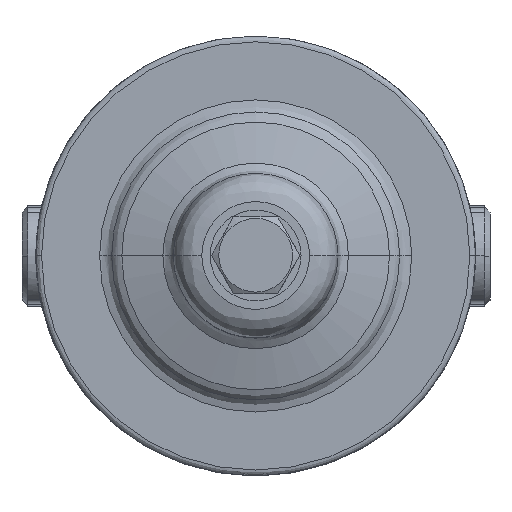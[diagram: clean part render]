
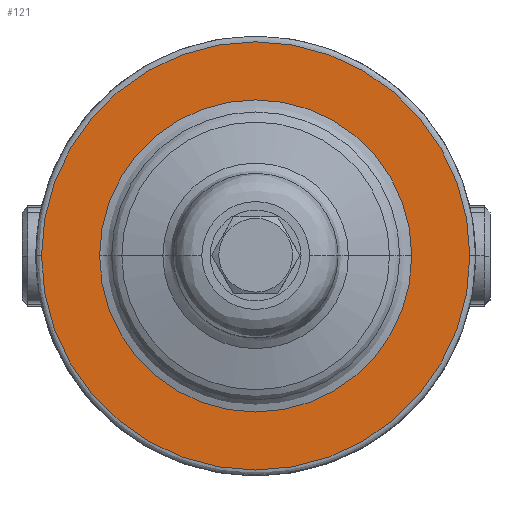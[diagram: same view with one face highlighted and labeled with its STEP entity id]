
A CAD part, top view. The second image highlights one B-rep face of the part: STEP entity #121.
In plain terms, the highlighted planar face has unit normal (0, 0, 1).
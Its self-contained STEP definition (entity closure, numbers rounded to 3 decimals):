
#121=ADVANCED_FACE('',(#1033,#1034),#1032,.F.);
#1032=PLANE('',#3255);
#1033=FACE_OUTER_BOUND('',#3256,.T.);
#1034=FACE_BOUND('',#3257,.T.);
#3252=CARTESIAN_POINT('',(161.,-140.77,46.254));
#3253=DIRECTION('',(0.,0.,-1.));
#3254=DIRECTION('',(-1.,0.,0.));
#3255=AXIS2_PLACEMENT_3D('',#3252,#3253,#3254);
#3256=EDGE_LOOP('',(#5311,#5312));
#3257=EDGE_LOOP('',(#5313,#5314));
#5311=ORIENTED_EDGE('',*,*,#6028,.T.);
#5312=ORIENTED_EDGE('',*,*,#6029,.T.);
#5313=ORIENTED_EDGE('',*,*,#6030,.T.);
#5314=ORIENTED_EDGE('',*,*,#6031,.T.);
#6028=EDGE_CURVE('',#7919,#7920,#7921,.T.);
#6029=EDGE_CURVE('',#7920,#7919,#7927,.T.);
#6030=EDGE_CURVE('',#7933,#7934,#7935,.T.);
#6031=EDGE_CURVE('',#7934,#7933,#7941,.T.);
#7919=VERTEX_POINT('',#10770);
#7920=VERTEX_POINT('',#10771);
#7921=CIRCLE('',#10775,75.5);
#7927=CIRCLE('',#10779,75.5);
#7933=VERTEX_POINT('',#10780);
#7934=VERTEX_POINT('',#10781);
#7935=CIRCLE('',#10785,55.026);
#7941=CIRCLE('',#10789,55.026);
#10770=CARTESIAN_POINT('',(-75.5,0.,46.254));
#10771=CARTESIAN_POINT('',(75.5,0.,46.254));
#10772=CARTESIAN_POINT('',(0.,0.,46.254));
#10773=DIRECTION('',(0.,0.,1.));
#10774=DIRECTION('',(-1.,0.,0.));
#10775=AXIS2_PLACEMENT_3D('',#10772,#10773,#10774);
#10776=CARTESIAN_POINT('',(0.,0.,46.254));
#10777=DIRECTION('',(0.,0.,1.));
#10778=DIRECTION('',(-1.,0.,0.));
#10779=AXIS2_PLACEMENT_3D('',#10776,#10777,#10778);
#10780=CARTESIAN_POINT('',(-55.026,0.,46.254));
#10781=CARTESIAN_POINT('',(55.026,0.,46.254));
#10782=CARTESIAN_POINT('',(0.,0.,46.254));
#10783=DIRECTION('',(0.,0.,-1.));
#10784=DIRECTION('',(-1.,0.,0.));
#10785=AXIS2_PLACEMENT_3D('',#10782,#10783,#10784);
#10786=CARTESIAN_POINT('',(0.,0.,46.254));
#10787=DIRECTION('',(0.,0.,-1.));
#10788=DIRECTION('',(-1.,0.,0.));
#10789=AXIS2_PLACEMENT_3D('',#10786,#10787,#10788);
